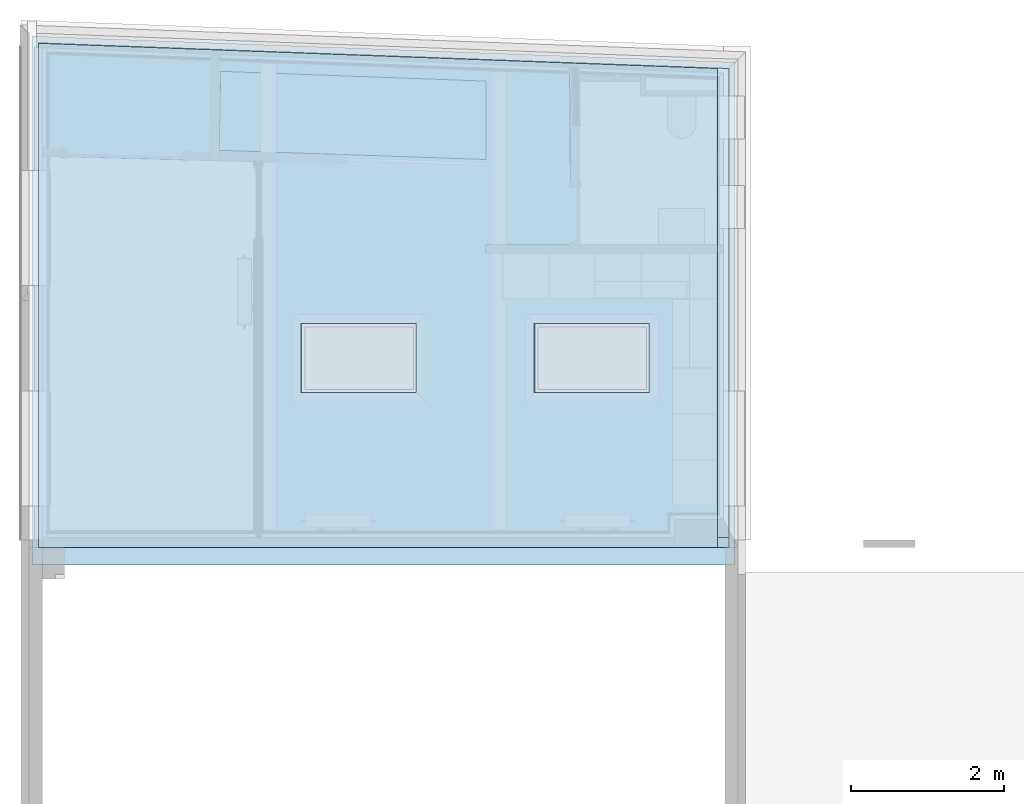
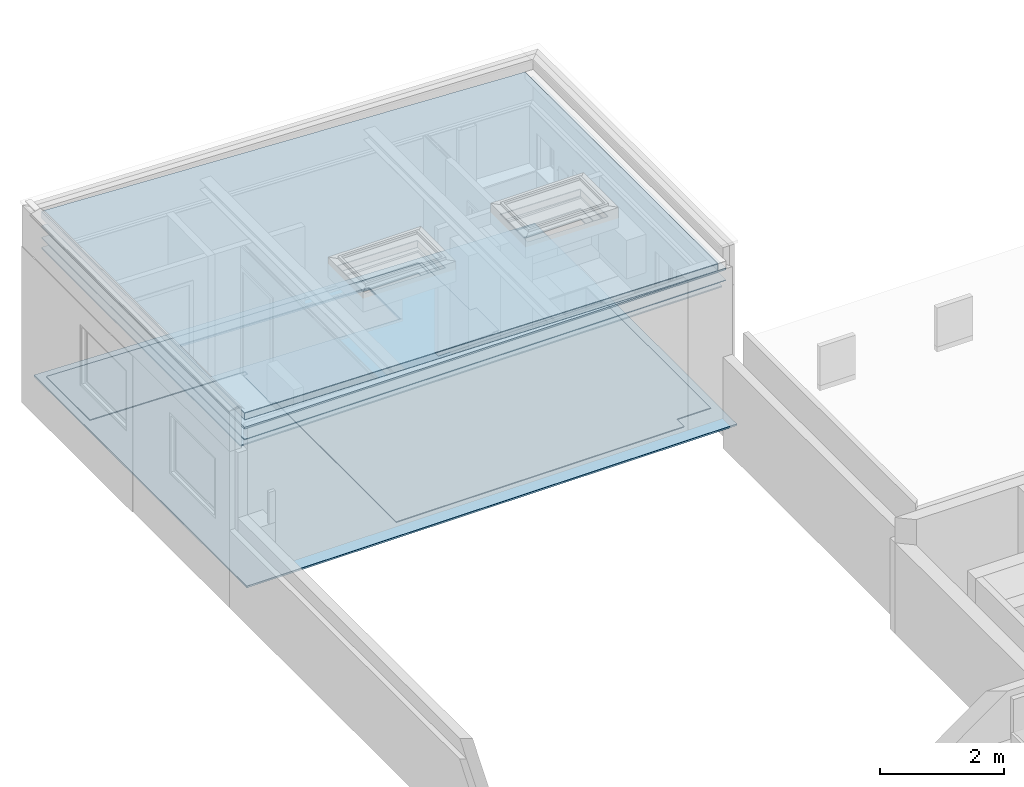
# One storey, part 9 of 23: 12 slabs.
"""IFC2X3 building model written with IfcOpenShell, lengths in metres."""

from ifc_helpers import new_model, entity, si_unit, converted_unit, derived_unit, money_unit, direction, frame, origin_with_axes, place, context, subcontext, project, spatial, faceted_brep, material, type_object, element, save


model = new_model("IFC2X3")

# Units and contexts
model_context = context("Model", 3, precision=1e-05, world=origin_with_axes(), true_north=direction((0.0, 1.0)))
body_context = subcontext(model_context, "Body", "Model", "MODEL_VIEW", scale=1.0)
ifc_project = project(units=[si_unit("LENGTHUNIT", "METRE"), si_unit("AREAUNIT", "SQUARE_METRE"), si_unit("VOLUMEUNIT", "CUBIC_METRE"), si_unit("ABSORBEDDOSEUNIT", "GRAY"), si_unit("AMOUNTOFSUBSTANCEUNIT", "MOLE"), si_unit("DOSEEQUIVALENTUNIT", "SIEVERT"), si_unit("ELECTRICCAPACITANCEUNIT", "FARAD"), si_unit("ELECTRICCHARGEUNIT", "COULOMB"), si_unit("ELECTRICCONDUCTANCEUNIT", "SIEMENS"), si_unit("ELECTRICCURRENTUNIT", "AMPERE"), si_unit("ELECTRICRESISTANCEUNIT", "OHM"), si_unit("ELECTRICVOLTAGEUNIT", "VOLT"), si_unit("ENERGYUNIT", "JOULE"), si_unit("FORCEUNIT", "NEWTON"), si_unit("FREQUENCYUNIT", "HERTZ"), si_unit("ILLUMINANCEUNIT", "LUX"), si_unit("INDUCTANCEUNIT", "HENRY"), si_unit("LUMINOUSFLUXUNIT", "LUMEN"), si_unit("LUMINOUSINTENSITYUNIT", "CANDELA"), si_unit("MAGNETICFLUXDENSITYUNIT", "TESLA"), si_unit("MAGNETICFLUXUNIT", "WEBER"), si_unit("MASSUNIT", "GRAM"), converted_unit("PLANEANGLEUNIT", "degree", entity("IfcReal", 0.0174532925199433), si_unit("PLANEANGLEUNIT", "RADIAN"), dimensions=[0, 0, 0, 0, 0, 0, 0]), si_unit("POWERUNIT", "WATT"), si_unit("PRESSUREUNIT", "PASCAL"), si_unit("RADIOACTIVITYUNIT", "BECQUEREL"), si_unit("SOLIDANGLEUNIT", "STERADIAN"), si_unit("THERMODYNAMICTEMPERATUREUNIT", "KELVIN"), si_unit("TIMEUNIT", "SECOND"), derived_unit("ACCELERATIONUNIT", [(si_unit("LENGTHUNIT", "METRE"), 1), (si_unit("TIMEUNIT", "SECOND"), -2)]), derived_unit("ANGULARVELOCITYUNIT", [(converted_unit("PLANEANGLEUNIT", "degree", entity("IfcReal", 0.0174532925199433), si_unit("PLANEANGLEUNIT", "RADIAN"), dimensions=[0, 0, 0, 0, 0, 0, 0]), 1), (si_unit("TIMEUNIT", "SECOND"), -1)]), derived_unit("CURVATUREUNIT", [(converted_unit("PLANEANGLEUNIT", "degree", entity("IfcReal", 0.0174532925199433), si_unit("PLANEANGLEUNIT", "RADIAN"), dimensions=[0, 0, 0, 0, 0, 0, 0]), 1), (si_unit("LENGTHUNIT", "METRE"), -1)]), derived_unit("DYNAMICVISCOSITYUNIT", [(si_unit("PRESSUREUNIT", "PASCAL"), 1), (si_unit("TIMEUNIT", "SECOND"), 1)]), derived_unit("HEATFLUXDENSITYUNIT", [(si_unit("POWERUNIT", "WATT"), 1), (si_unit("LENGTHUNIT", "METRE"), -2)]), derived_unit("HEATINGVALUEUNIT", [(si_unit("ENERGYUNIT", "JOULE"), 1), (si_unit("MASSUNIT", "GRAM"), -1)]), derived_unit("INTEGERCOUNTRATEUNIT", [(si_unit("TIMEUNIT", "SECOND"), -1)]), derived_unit("IONCONCENTRATIONUNIT", [(si_unit("MASSUNIT", "GRAM"), 1), (si_unit("VOLUMEUNIT", "CUBIC_METRE"), -1)]), derived_unit("ISOTHERMALMOISTURECAPACITYUNIT", [(si_unit("VOLUMEUNIT", "CUBIC_METRE"), 1), (si_unit("MASSUNIT", "GRAM"), -1)]), derived_unit("KINEMATICVISCOSITYUNIT", [(si_unit("AREAUNIT", "SQUARE_METRE"), 1), (si_unit("TIMEUNIT", "SECOND"), -1)]), derived_unit("LINEARFORCEUNIT", [(si_unit("FORCEUNIT", "NEWTON"), 1), (si_unit("LENGTHUNIT", "METRE"), -1)]), derived_unit("LINEARMOMENTUNIT", [(si_unit("FORCEUNIT", "NEWTON"), 1), (si_unit("LENGTHUNIT", "METRE"), -1)]), derived_unit("LINEARSTIFFNESSUNIT", [(si_unit("FORCEUNIT", "NEWTON"), 1), (si_unit("LENGTHUNIT", "METRE"), -1)]), derived_unit("LINEARVELOCITYUNIT", [(si_unit("LENGTHUNIT", "METRE"), 1), (si_unit("TIMEUNIT", "SECOND"), -1)]), derived_unit("LUMINOUSINTENSITYDISTRIBUTIONUNIT", [(si_unit("LUMINOUSINTENSITYUNIT", "CANDELA"), 1), (si_unit("LUMINOUSFLUXUNIT", "LUMEN"), -1)]), derived_unit("MASSDENSITYUNIT", [(si_unit("MASSUNIT", "GRAM"), 1), (si_unit("VOLUMEUNIT", "CUBIC_METRE"), -1)]), derived_unit("MASSFLOWRATEUNIT", [(si_unit("MASSUNIT", "GRAM"), 1), (si_unit("TIMEUNIT", "SECOND"), -1)]), derived_unit("MASSPERLENGTHUNIT", [(si_unit("MASSUNIT", "GRAM"), 1), (si_unit("LENGTHUNIT", "METRE"), -1)]), derived_unit("MODULUSOFELASTICITYUNIT", [(si_unit("FORCEUNIT", "NEWTON"), 1), (si_unit("AREAUNIT", "SQUARE_METRE"), -1)]), derived_unit("MODULUSOFLINEARSUBGRADEREACTIONUNIT", [(si_unit("FORCEUNIT", "NEWTON"), 1), (si_unit("LENGTHUNIT", "METRE"), -2)]), derived_unit("MODULUSOFROTATIONALSUBGRADEREACTIONUNIT", [(si_unit("FORCEUNIT", "NEWTON"), 1), (si_unit("LENGTHUNIT", "METRE"), 1)]), derived_unit("MODULUSOFSUBGRADEREACTIONUNIT", [(si_unit("FORCEUNIT", "NEWTON"), 1), (si_unit("VOLUMEUNIT", "CUBIC_METRE"), -1)]), derived_unit("MOISTUREDIFFUSIVITYUNIT", [(si_unit("VOLUMEUNIT", "CUBIC_METRE"), 1), (si_unit("TIMEUNIT", "SECOND"), -1)]), derived_unit("MOLECULARWEIGHTUNIT", [(si_unit("MASSUNIT", "GRAM"), 1), (si_unit("AMOUNTOFSUBSTANCEUNIT", "MOLE"), -1)]), derived_unit("PLANARFORCEUNIT", [(si_unit("FORCEUNIT", "NEWTON"), 1), (si_unit("LENGTHUNIT", "METRE"), -2)]), derived_unit("ROTATIONALFREQUENCYUNIT", [(si_unit("TIMEUNIT", "SECOND"), -1)]), derived_unit("ROTATIONALMASSUNIT", [(si_unit("MASSUNIT", "GRAM"), 1), (si_unit("LENGTHUNIT", "METRE"), 2)]), derived_unit("ROTATIONALSTIFFNESSUNIT", [(si_unit("FORCEUNIT", "NEWTON"), 1), (si_unit("LENGTHUNIT", "METRE"), 1), (converted_unit("PLANEANGLEUNIT", "degree", entity("IfcReal", 0.0174532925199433), si_unit("PLANEANGLEUNIT", "RADIAN"), dimensions=[0, 0, 0, 0, 0, 0, 0]), -1)]), derived_unit("SECTIONAREAINTEGRALUNIT", [(si_unit("LENGTHUNIT", "METRE"), 5)]), derived_unit("SECTIONMODULUSUNIT", [(si_unit("LENGTHUNIT", "METRE"), 3)]), derived_unit("SHEARMODULUSUNIT", [(si_unit("FORCEUNIT", "NEWTON"), 1), (si_unit("AREAUNIT", "SQUARE_METRE"), -1)]), derived_unit("SOUNDPOWERUNIT", [(si_unit("ENERGYUNIT", "JOULE"), 1), (si_unit("TIMEUNIT", "SECOND"), -1)]), derived_unit("SPECIFICHEATCAPACITYUNIT", [(si_unit("FORCEUNIT", "NEWTON"), 1), (si_unit("MASSUNIT", "GRAM"), -1), (si_unit("THERMODYNAMICTEMPERATUREUNIT", "KELVIN"), -1)]), derived_unit("TEMPERATUREGRADIENTUNIT", [(si_unit("THERMODYNAMICTEMPERATUREUNIT", "KELVIN"), 1), (si_unit("LENGTHUNIT", "METRE"), -1)]), derived_unit("THERMALADMITTANCEUNIT", [(si_unit("POWERUNIT", "WATT"), 1), (si_unit("AREAUNIT", "SQUARE_METRE"), -1), (si_unit("THERMODYNAMICTEMPERATUREUNIT", "KELVIN"), -1)]), derived_unit("THERMALCONDUCTANCEUNIT", [(si_unit("POWERUNIT", "WATT"), 1), (si_unit("LENGTHUNIT", "METRE"), -1), (si_unit("THERMODYNAMICTEMPERATUREUNIT", "KELVIN"), -1)]), derived_unit("THERMALEXPANSIONCOEFFICIENTUNIT", [(si_unit("THERMODYNAMICTEMPERATUREUNIT", "KELVIN"), -1)]), derived_unit("THERMALRESISTANCEUNIT", [(si_unit("AREAUNIT", "SQUARE_METRE"), 1), (si_unit("POWERUNIT", "WATT"), -1)]), derived_unit("THERMALTRANSMITTANCEUNIT", [(si_unit("POWERUNIT", "WATT"), 1), (si_unit("AREAUNIT", "SQUARE_METRE"), -1), (si_unit("THERMODYNAMICTEMPERATUREUNIT", "KELVIN"), -1)]), derived_unit("TORQUEUNIT", [(si_unit("FORCEUNIT", "NEWTON"), 1), (si_unit("LENGTHUNIT", "METRE"), 1)]), derived_unit("VAPORPERMEABILITYUNIT", [(si_unit("MASSUNIT", "GRAM"), 1), (si_unit("TIMEUNIT", "SECOND"), -1)]), derived_unit("VOLUMETRICFLOWRATEUNIT", [(si_unit("VOLUMEUNIT", "CUBIC_METRE"), 1), (si_unit("TIMEUNIT", "SECOND"), -1)]), derived_unit("WARPINGCONSTANTUNIT", [(si_unit("LENGTHUNIT", "METRE"), 6)]), derived_unit("WARPINGMOMENTUNIT", [(si_unit("FORCEUNIT", "NEWTON"), 1), (si_unit("LENGTHUNIT", "METRE"), 2)]), money_unit("GBP")], contexts=[model_context])

# Site, building, storey
site_placement = place(None, origin_with_axes())
site = spatial("IfcSite", under=ifc_project, at=site_placement, Name="Site", CompositionType="ELEMENT")
building_placement = place(site_placement, origin_with_axes())
building = spatial("IfcBuilding", under=site, at=building_placement, Name="Building01", CompositionType="ELEMENT")
storey_placement = place(building_placement, frame((0.0, 0.0, 2.6), z_axis=(0.0, 0.0, 1.0), x_axis=(1.0, 0.0, 0.0)))
storey = spatial("IfcBuildingStorey", under=building, at=storey_placement, Name="MF", CompositionType="ELEMENT", Elevation=2.6)

# Slabs
ifc_material_1 = material(Name="A_BSUK_InternalFinishes_FloorScreed")
slab_type = type_object("IfcSlabType", Name="A-FloorsSlabs A_BSUK_Slabs", PredefinedType="FLOOR")
placement = place(storey_placement, frame((0.0, 0.0, -2.6), z_axis=(0.0, 0.0, 1.0), x_axis=(1.0, 0.0, 0.0)))
element("IfcSlab", 1, at=placement, inside=storey, type_object=slab_type, material=ifc_material_1, Name="A-FloorsSlabs A_BSUK_Slabs", ObjectType="CompoundSlabLeaf", context=body_context, shape_type="Brep", body=[
    faceted_brep([(9.303038, 14.580001, 3.167), (9.303038, 21.127455, 3.167), (0.140679, 21.46733, 3.167), (0.140679, 21.436217, 3.167), (0.140679, 14.580006, 3.167), (0.668282, 14.580006, 3.167), (0.668282, 14.580016, 3.167), (2.584185, 19.979174, 3.167), (2.600185, 21.008386, 3.167), (6.062509, 20.880804, 3.167), (6.06243, 19.859391, 3.167), (0.668282, 14.580016, 3.135), (0.668282, 14.580006, 3.135), (0.140679, 14.580006, 3.135), (0.140679, 21.436217, 3.135), (0.140679, 21.46733, 3.135), (9.303038, 21.127455, 3.135), (9.303038, 14.580001, 3.135), (2.584185, 19.979174, 3.135), (6.06243, 19.859391, 3.135), (6.062509, 20.880804, 3.135), (2.600185, 21.008386, 3.135)], [[[0, 1, 2, 3, 4, 5, 6], [7, 8, 9, 10]], [[11, 12, 13, 14, 15, 16, 17], [18, 19, 20, 21]], [[17, 0, 6, 11]], [[16, 1, 0, 17]], [[15, 2, 1, 16]], [[14, 3, 2, 15]], [[13, 4, 3, 14]], [[12, 5, 4, 13]], [[11, 6, 5, 12]], [[18, 21, 8, 7]], [[19, 18, 7, 10]], [[20, 19, 10, 9]], [[21, 20, 9, 8]]]),
])
ifc_material_2 = material(Name="A_BSUK_Parquet_Floor")
element("IfcSlab", 2, at=placement, inside=storey, type_object=slab_type, material=ifc_material_2, Name="A-FloorsSlabs A_BSUK_Slabs", ObjectType="CompoundSlabLeaf", context=body_context, shape_type="Brep", body=[
    faceted_brep([(8.516893, 14.93, 3.182), (8.516893, 15.168, 3.182), (9.154265, 15.168, 3.182), (9.154265, 18.639607, 3.182), (6.06243, 18.639607, 3.182), (6.06243, 18.752607, 3.182), (7.159608, 18.752607, 3.182), (7.159608, 18.78011, 3.182), (7.279608, 18.78011, 3.182), (7.279608, 19.51011, 3.182), (7.160903, 19.51011, 3.182), (7.150398, 21.06028, 3.182), (0.280897, 21.315124, 3.182), (0.280897, 19.90157, 3.182), (3.137414, 19.828341, 3.182), (3.137414, 19.740347, 3.182), (3.057414, 19.740347, 3.182), (3.057414, 18.840347, 3.182), (3.137414, 18.840347, 3.182), (3.137414, 14.93, 3.182), (4.398835, 14.93, 3.182), (4.398835, 14.93001, 3.182), (2.584185, 19.979174, 3.182), (2.600185, 21.008386, 3.182), (6.062509, 20.880804, 3.182), (6.06243, 19.859391, 3.182), (4.398835, 14.93001, 3.17), (4.398835, 14.93, 3.17), (3.137414, 14.93, 3.17), (3.137414, 18.840347, 3.17), (3.057414, 18.840347, 3.17), (3.057414, 19.740347, 3.17), (3.137414, 19.740347, 3.17), (3.137414, 19.828341, 3.17), (0.280897, 19.90157, 3.17), (0.280897, 21.315124, 3.17), (7.150398, 21.06028, 3.17), (7.160903, 19.51011, 3.17), (7.279608, 19.51011, 3.17), (7.279608, 18.78011, 3.17), (7.159608, 18.78011, 3.17), (7.159608, 18.752607, 3.17), (6.06243, 18.752607, 3.17), (6.06243, 18.639607, 3.17), (9.154265, 18.639607, 3.17), (9.154265, 15.168, 3.17), (8.516893, 15.168, 3.17), (8.516893, 14.93, 3.17), (2.584185, 19.979174, 3.17), (6.06243, 19.859391, 3.17), (6.062509, 20.880804, 3.17), (2.600185, 21.008386, 3.17)], [[[0, 1, 2, 3, 4, 5, 6, 7, 8, 9, 10, 11, 12, 13, 14, 15, 16, 17, 18, 19, 20, 21], [22, 23, 24, 25]], [[26, 27, 28, 29, 30, 31, 32, 33, 34, 35, 36, 37, 38, 39, 40, 41, 42, 43, 44, 45, 46, 47], [48, 49, 50, 51]], [[47, 0, 21, 26]], [[46, 1, 0, 47]], [[45, 2, 1, 46]], [[44, 3, 2, 45]], [[43, 4, 3, 44]], [[42, 5, 4, 43]], [[41, 6, 5, 42]], [[40, 7, 6, 41]], [[39, 8, 7, 40]], [[38, 9, 8, 39]], [[37, 10, 9, 38]], [[36, 11, 10, 37]], [[35, 12, 11, 36]], [[34, 13, 12, 35]], [[33, 14, 13, 34]], [[32, 15, 14, 33]], [[31, 16, 15, 32]], [[30, 17, 16, 31]], [[29, 18, 17, 30]], [[28, 19, 18, 29]], [[27, 20, 19, 28]], [[26, 21, 20, 27]], [[48, 51, 23, 22]], [[49, 48, 22, 25]], [[50, 49, 25, 24]], [[51, 50, 24, 23]]]),
])
ifc_material_3 = material(Name="A_BSUK_Insulation")
element("IfcSlab", 3, at=placement, inside=storey, type_object=slab_type, material=ifc_material_3, Name="A-FloorsSlabs A_BSUK_Slabs", ObjectType="CompoundSlabLeaf", context=body_context, shape_type="Brep", body=[
    faceted_brep([(9.078865, 14.800006, 6.277465), (9.078036, 21.045273, 6.277479), (0.227794, 21.373645, 6.425013), (0.227861, 14.799995, 6.425012), (8.190049, 17.72, 6.292282), (8.190049, 16.82, 6.292282), (6.689987, 16.82, 6.317288), (6.689987, 17.72, 6.317288), (5.149923, 17.72, 6.342961), (5.149923, 16.82, 6.342961), (3.649861, 16.82, 6.367967), (3.649861, 17.72, 6.367967), (0.225694, 14.799995, 6.29503), (0.225627, 21.373645, 6.295031), (9.075869, 21.045273, 6.147497), (9.076698, 14.800006, 6.147483), (8.187882, 17.72, 6.1623), (6.68782, 17.72, 6.187306), (6.68782, 16.82, 6.187306), (8.187882, 16.82, 6.1623), (5.147756, 17.72, 6.212979), (3.647695, 17.72, 6.237985), (3.647695, 16.82, 6.237985), (5.147756, 16.82, 6.212979)], [[[0, 1, 2, 3], [4, 5, 6, 7], [8, 9, 10, 11]], [[12, 13, 14, 15], [16, 17, 18, 19], [20, 21, 22, 23]], [[15, 0, 3, 12]], [[14, 1, 0, 15]], [[13, 2, 1, 14]], [[12, 3, 2, 13]], [[7, 17, 16, 4]], [[4, 16, 19, 5]], [[5, 19, 18, 6]], [[6, 18, 17, 7]], [[11, 21, 20, 8]], [[8, 20, 23, 9]], [[9, 23, 22, 10]], [[10, 22, 21, 11]]]),
])
ifc_material_4 = material(Name="A_BSUK_ExpandedPolystyreneBoards")
element("IfcSlab", 4, at=placement, inside=storey, type_object=slab_type, material=ifc_material_4, Name="A-FloorsSlabs A_BSUK_Slabs", ObjectType="CompoundSlabLeaf", context=body_context, shape_type="Brep", body=[
    faceted_brep([(9.303038, 14.580001, 3.167), (9.303038, 14.580001, 3.17), (0.668282, 14.580016, 3.17), (0.668282, 14.580016, 3.167), (9.303038, 21.127455, 3.167), (9.303038, 21.127455, 3.17), (0.140679, 21.46733, 3.167), (0.140679, 21.46733, 3.17), (0.140679, 21.436217, 3.167), (0.140679, 21.436217, 3.17), (0.140679, 14.580006, 3.167), (0.140679, 14.580006, 3.17), (0.668282, 14.580006, 3.167), (0.668282, 14.580006, 3.17), (2.600185, 21.008386, 3.17), (6.062509, 20.880804, 3.17), (6.06243, 19.859391, 3.17), (2.584185, 19.979174, 3.17), (2.600185, 21.008386, 3.167), (2.584185, 19.979174, 3.167), (6.06243, 19.859391, 3.167), (6.062509, 20.880804, 3.167)], [[[0, 1, 2, 3]], [[4, 5, 1, 0]], [[6, 7, 5, 4]], [[8, 9, 7, 6]], [[10, 11, 9, 8]], [[12, 13, 11, 10]], [[3, 2, 13, 12]], [[1, 5, 7, 9, 11, 13, 2], [14, 15, 16, 17]], [[3, 12, 10, 8, 6, 4, 0], [18, 19, 20, 21]], [[18, 14, 17, 19]], [[19, 17, 16, 20]], [[20, 16, 15, 21]], [[21, 15, 14, 18]]]),
])
ifc_material_5 = material(Name="A_BSUK_CeilingSoffitFinishes_Suspended")
element("IfcSlab", 5, at=placement, inside=storey, type_object=slab_type, material=ifc_material_5, Name="A-FloorsSlabs A_BSUK_Slabs", ObjectType="CompoundSlabLeaf", context=body_context, shape_type="Brep", body=[
    faceted_brep([(9.226298, 14.93, 5.715), (9.225486, 21.045273, 5.715), (0.225871, 21.37914, 5.715), (0.225624, 14.93, 5.715), (8.197414, 17.72, 5.715), (8.197414, 16.82, 5.715), (6.697414, 16.82, 5.715), (6.697414, 17.72, 5.715), (5.157414, 17.72, 5.715), (5.157414, 16.82, 5.715), (3.657414, 16.82, 5.715), (3.657414, 17.72, 5.715), (0.225624, 14.93, 5.7), (0.225871, 21.37914, 5.7), (9.225486, 21.045273, 5.7), (9.226298, 14.93, 5.7), (8.197414, 17.72, 5.7), (6.697414, 17.72, 5.7), (6.697414, 16.82, 5.7), (8.197414, 16.82, 5.7), (5.157414, 17.72, 5.7), (3.657414, 17.72, 5.7), (3.657414, 16.82, 5.7), (5.157414, 16.82, 5.7)], [[[0, 1, 2, 3], [4, 5, 6, 7], [8, 9, 10, 11]], [[12, 13, 14, 15], [16, 17, 18, 19], [20, 21, 22, 23]], [[15, 0, 3, 12]], [[14, 1, 0, 15]], [[13, 2, 1, 14]], [[12, 3, 2, 13]], [[7, 17, 16, 4]], [[4, 16, 19, 5]], [[5, 19, 18, 6]], [[6, 18, 17, 7]], [[11, 21, 20, 8]], [[8, 20, 23, 9]], [[9, 23, 22, 10]], [[10, 22, 21, 11]]]),
])
ifc_material_6 = material(Name="A_BSUK_InternalFinishesCeilingOrSoffit")
element("IfcSlab", 6, at=placement, inside=storey, type_object=slab_type, material=ifc_material_6, Name="A-FloorsSlabs A_BSUK_Slabs", ObjectType="CompoundSlabLeaf", context=body_context, shape_type="Brep", body=[
    faceted_brep([(9.226315, 14.800006, 6.145), (9.225486, 21.045273, 6.145), (0.225871, 21.37914, 6.145), (0.225624, 14.799995, 6.145), (8.197414, 17.72, 6.145), (8.197414, 16.82, 6.145), (6.697414, 16.82, 6.145), (6.697414, 17.72, 6.145), (5.157414, 17.72, 6.145), (5.157414, 16.82, 6.145), (3.657414, 16.82, 6.145), (3.657414, 17.72, 6.145), (0.225624, 14.799995, 6.11), (0.225871, 21.37914, 6.11), (9.225486, 21.045273, 6.11), (9.226315, 14.800006, 6.11), (8.197414, 17.72, 6.11), (6.697414, 17.72, 6.11), (6.697414, 16.82, 6.11), (8.197414, 16.82, 6.11), (5.157414, 17.72, 6.11), (3.657414, 17.72, 6.11), (3.657414, 16.82, 6.11), (5.157414, 16.82, 6.11)], [[[0, 1, 2, 3], [4, 5, 6, 7], [8, 9, 10, 11]], [[12, 13, 14, 15], [16, 17, 18, 19], [20, 21, 22, 23]], [[15, 0, 3, 12]], [[14, 1, 0, 15]], [[13, 2, 1, 14]], [[12, 3, 2, 13]], [[7, 17, 16, 4]], [[4, 16, 19, 5]], [[5, 19, 18, 6]], [[6, 18, 17, 7]], [[11, 21, 20, 8]], [[8, 20, 23, 9]], [[9, 23, 22, 10]], [[10, 22, 21, 11]]]),
])
element("IfcSlab", 7, at=placement, inside=storey, type_object=slab_type, material=ifc_material_5, Name="A-FloorsSlabs A_BSUK_Slabs", ObjectType="CompoundSlabLeaf", context=body_context, shape_type="Brep", body=[
    faceted_brep([(9.226298, 14.93, 5.7), (9.225486, 21.045273, 5.7), (0.225871, 21.37914, 5.7), (0.225624, 14.93, 5.7), (8.197414, 17.72, 5.7), (8.197414, 16.82, 5.7), (6.697414, 16.82, 5.7), (6.697414, 17.72, 5.7), (5.157414, 17.72, 5.7), (5.157414, 16.82, 5.7), (3.657414, 16.82, 5.7), (3.657414, 17.72, 5.7), (0.225624, 14.93, 5.685), (0.225871, 21.37914, 5.685), (9.225486, 21.045273, 5.685), (9.226298, 14.93, 5.685), (8.197414, 17.72, 5.685), (6.697414, 17.72, 5.685), (6.697414, 16.82, 5.685), (8.197414, 16.82, 5.685), (5.157414, 17.72, 5.685), (3.657414, 17.72, 5.685), (3.657414, 16.82, 5.685), (5.157414, 16.82, 5.685)], [[[0, 1, 2, 3], [4, 5, 6, 7], [8, 9, 10, 11]], [[12, 13, 14, 15], [16, 17, 18, 19], [20, 21, 22, 23]], [[15, 0, 3, 12]], [[14, 1, 0, 15]], [[13, 2, 1, 14]], [[12, 3, 2, 13]], [[7, 17, 16, 4]], [[4, 16, 19, 5]], [[5, 19, 18, 6]], [[6, 18, 17, 7]], [[11, 21, 20, 8]], [[8, 20, 23, 9]], [[9, 23, 22, 10]], [[10, 22, 21, 11]]]),
])
element("IfcSlab", 8, at=placement, inside=storey, type_object=slab_type, material=ifc_material_3, Name="A-FloorsSlabs A_BSUK_Slabs", ObjectType="CompoundSlabLeaf", context=body_context, shape_type="Brep", body=[
    faceted_brep([(9.076698, 14.800006, 6.147483), (9.075869, 21.045273, 6.147497), (0.225669, 21.373632, 6.29503), (0.225735, 14.799995, 6.295029), (8.187929, 17.72, 6.162299), (8.187929, 16.82, 6.162299), (6.687867, 16.82, 6.187305), (6.687867, 17.72, 6.187305), (5.147804, 17.72, 6.212978), (5.147804, 16.82, 6.212978), (3.647742, 16.82, 6.237984), (3.647742, 17.72, 6.237984), (0.225694, 14.799995, 6.292529), (0.225627, 21.373632, 6.292531), (9.075828, 21.045273, 6.144998), (9.076656, 14.800006, 6.144984), (8.187888, 17.72, 6.1598), (6.687826, 17.72, 6.184806), (6.687826, 16.82, 6.184806), (8.187888, 16.82, 6.1598), (5.147762, 17.72, 6.210478), (3.6477, 17.72, 6.235485), (3.6477, 16.82, 6.235485), (5.147762, 16.82, 6.210478)], [[[0, 1, 2, 3], [4, 5, 6, 7], [8, 9, 10, 11]], [[12, 13, 14, 15], [16, 17, 18, 19], [20, 21, 22, 23]], [[15, 0, 3, 12]], [[14, 1, 0, 15]], [[13, 2, 1, 14]], [[12, 3, 2, 13]], [[7, 17, 16, 4]], [[4, 16, 19, 5]], [[5, 19, 18, 6]], [[6, 18, 17, 7]], [[11, 21, 20, 8]], [[8, 20, 23, 9]], [[9, 23, 22, 10]], [[10, 22, 21, 11]]]),
])
element("IfcSlab", 9, at=placement, inside=storey, type_object=slab_type, material=ifc_material_3, Name="A-FloorsSlabs A_BSUK_Slabs", ObjectType="CompoundSlabLeaf", context=body_context, shape_type="Brep", body=[
    faceted_brep([(9.078898, 14.800006, 6.279465), (9.078069, 21.045273, 6.279479), (0.225661, 21.373632, 6.427049), (0.225727, 14.799995, 6.427048), (8.187614, 17.72, 6.294323), (8.187614, 16.82, 6.294323), (6.687552, 16.82, 6.319329), (6.687552, 17.72, 6.319329), (5.147489, 17.72, 6.345002), (5.147489, 16.82, 6.345002), (3.647427, 16.82, 6.370008), (3.647427, 17.72, 6.370008), (0.225694, 14.799995, 6.425048), (0.225627, 21.373632, 6.425049), (9.078036, 21.045273, 6.277479), (9.078865, 14.800006, 6.277465), (8.187581, 17.72, 6.292323), (6.687519, 17.72, 6.317329), (6.687519, 16.82, 6.317329), (8.187581, 16.82, 6.292323), (5.147456, 17.72, 6.343002), (3.647394, 17.72, 6.368008), (3.647394, 16.82, 6.368008), (5.147456, 16.82, 6.343002)], [[[0, 1, 2, 3], [4, 5, 6, 7], [8, 9, 10, 11]], [[12, 13, 14, 15], [16, 17, 18, 19], [20, 21, 22, 23]], [[15, 0, 3, 12]], [[14, 1, 0, 15]], [[13, 2, 1, 14]], [[12, 3, 2, 13]], [[7, 17, 16, 4]], [[4, 16, 19, 5]], [[5, 19, 18, 6]], [[6, 18, 17, 7]], [[11, 21, 20, 8]], [[8, 20, 23, 9]], [[9, 23, 22, 10]], [[10, 22, 21, 11]]]),
])
element("IfcSlab", 10, at=placement, inside=storey, type_object=slab_type, material=ifc_material_3, Name="A-FloorsSlabs A_BSUK_Slabs", ObjectType="CompoundSlabLeaf", context=body_context, shape_type="Brep", body=[
    faceted_brep([(9.078968, 14.800006, 6.283664), (9.078139, 21.045273, 6.283678), (0.225697, 21.373632, 6.431249), (0.225694, 14.799995, 6.431249), (8.187646, 17.72, 6.298523), (8.187646, 16.82, 6.298523), (6.687585, 16.82, 6.323529), (6.687585, 17.72, 6.323529), (5.147521, 17.72, 6.349202), (5.147521, 16.82, 6.349202), (3.647459, 16.82, 6.374208), (3.647459, 17.72, 6.374208), (0.225624, 14.799995, 6.427049), (0.225627, 21.373632, 6.427049), (9.078069, 21.045273, 6.279479), (9.078898, 14.800006, 6.279465), (8.187576, 17.72, 6.294323), (6.687515, 17.72, 6.319329), (6.687515, 16.82, 6.319329), (8.187576, 16.82, 6.294323), (5.147451, 17.72, 6.345002), (3.647389, 17.72, 6.370008), (3.647389, 16.82, 6.370008), (5.147451, 16.82, 6.345002)], [[[0, 1, 2, 3], [4, 5, 6, 7], [8, 9, 10, 11]], [[12, 13, 14, 15], [16, 17, 18, 19], [20, 21, 22, 23]], [[15, 0, 3, 12]], [[14, 1, 0, 15]], [[13, 2, 1, 14]], [[12, 3, 2, 13]], [[7, 17, 16, 4]], [[4, 16, 19, 5]], [[5, 19, 18, 6]], [[6, 18, 17, 7]], [[11, 21, 20, 8]], [[8, 20, 23, 9]], [[9, 23, 22, 10]], [[10, 22, 21, 11]]]),
])
element("IfcSlab", 11, at=placement, inside=storey, type_object=slab_type, material=ifc_material_1, Name="A-FloorsSlabs A_BSUK_Slabs", ObjectType="CompoundSlabLeaf", context=body_context, shape_type="Brep", body=[
    faceted_brep([(9.226315, 14.800006, 5.913), (9.225486, 21.045273, 5.913), (0.225871, 21.37914, 5.913), (0.225624, 14.799995, 5.913), (8.197414, 17.72, 5.913), (8.197414, 16.82, 5.913), (6.697414, 16.82, 5.913), (6.697414, 17.72, 5.913), (5.157414, 17.72, 5.913), (5.157414, 16.82, 5.913), (3.657414, 16.82, 5.913), (3.657414, 17.72, 5.913), (0.225624, 14.799995, 5.895), (0.225871, 21.37914, 5.895), (9.225486, 21.045273, 5.895), (9.226315, 14.800006, 5.895), (8.197414, 17.72, 5.895), (6.697414, 17.72, 5.895), (6.697414, 16.82, 5.895), (8.197414, 16.82, 5.895), (5.157414, 17.72, 5.895), (3.657414, 17.72, 5.895), (3.657414, 16.82, 5.895), (5.157414, 16.82, 5.895)], [[[0, 1, 2, 3], [4, 5, 6, 7], [8, 9, 10, 11]], [[12, 13, 14, 15], [16, 17, 18, 19], [20, 21, 22, 23]], [[15, 0, 3, 12]], [[14, 1, 0, 15]], [[13, 2, 1, 14]], [[12, 3, 2, 13]], [[7, 17, 16, 4]], [[4, 16, 19, 5]], [[5, 19, 18, 6]], [[6, 18, 17, 7]], [[11, 21, 20, 8]], [[8, 20, 23, 9]], [[9, 23, 22, 10]], [[10, 22, 21, 11]]]),
])
ifc_material_7 = material(Name="A_BSUK_Steel_Miscellaneous")
element("IfcSlab", 12, at=placement, inside=storey, type_object=slab_type, material=ifc_material_7, Name="A-FloorsSlabs A_BSUK_Slabs", ObjectType="CompoundSlabLeaf", context=body_context, shape_type="Brep", body=[
    faceted_brep([(9.078932, 14.800006, 6.285664), (9.078103, 21.045273, 6.285678), (0.225661, 21.373632, 6.433248), (0.225657, 14.799995, 6.433248), (8.18761, 17.72, 6.300523), (8.18761, 16.82, 6.300523), (6.687548, 16.82, 6.325529), (6.687548, 17.72, 6.325529), (5.147484, 17.72, 6.351201), (5.147484, 16.82, 6.351201), (3.647423, 16.82, 6.376208), (3.647423, 17.72, 6.376208), (0.225624, 14.799995, 6.431249), (0.225627, 21.373632, 6.431249), (9.078069, 21.045273, 6.283678), (9.078898, 14.800006, 6.283664), (8.187576, 17.72, 6.298523), (6.687515, 17.72, 6.323529), (6.687515, 16.82, 6.323529), (8.187576, 16.82, 6.298523), (5.147451, 17.72, 6.349202), (3.647389, 17.72, 6.374208), (3.647389, 16.82, 6.374208), (5.147451, 16.82, 6.349202)], [[[0, 1, 2, 3], [4, 5, 6, 7], [8, 9, 10, 11]], [[12, 13, 14, 15], [16, 17, 18, 19], [20, 21, 22, 23]], [[15, 0, 3, 12]], [[14, 1, 0, 15]], [[13, 2, 1, 14]], [[12, 3, 2, 13]], [[7, 17, 16, 4]], [[4, 16, 19, 5]], [[5, 19, 18, 6]], [[6, 18, 17, 7]], [[11, 21, 20, 8]], [[8, 20, 23, 9]], [[9, 23, 22, 10]], [[10, 22, 21, 11]]]),
])

save(model, "model.ifc")
